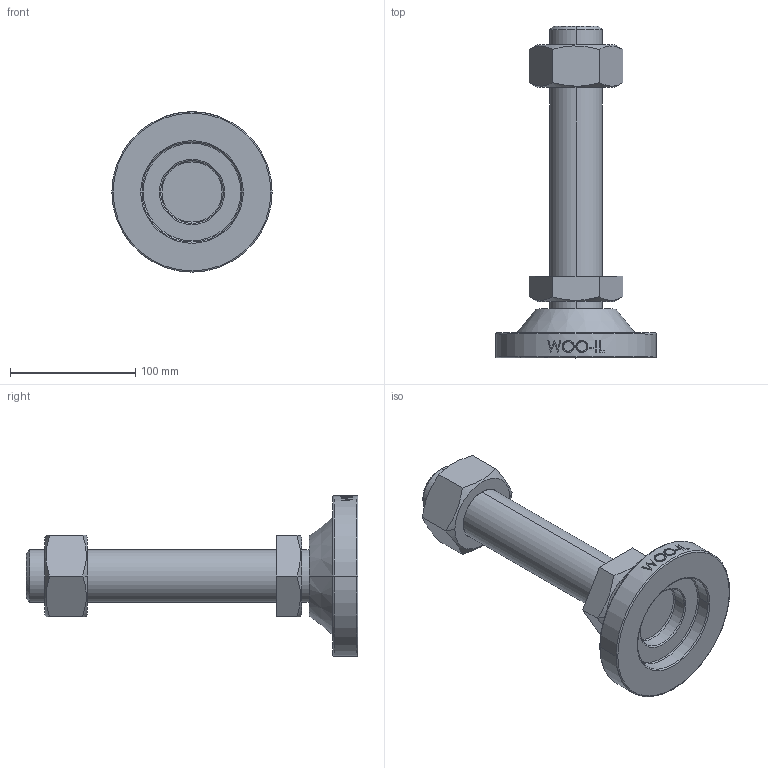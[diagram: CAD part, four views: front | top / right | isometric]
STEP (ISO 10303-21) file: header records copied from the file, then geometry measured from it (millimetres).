
FILE_DESCRIPTION (( 'STEP AP214' ), '1' );
FILE_NAME ('MFU128-M42-200.step', '2021-01-21T06:13:30', ( '' ), ( '' ), 'SwSTEP 2.0', 'SolidWorks 2019', '' );
FILE_SCHEMA (( 'AUTOMOTIVE_DESIGN' ));
Length unit declared in the file: millimetre
Products named in the file (2): MFU128-M42-200
Bounding box: 128 x 265 x 128 mm (x, y, z)
Volume: 700677.9 mm3; surface area: 91960.9 mm2
Topology: 2 solids, 2 shells, 111 faces, 255 edges, 162 vertices
Faces by surface type: plane 49, cylinder 20, bspline 16, cone 14, torus 12
Entity records: 4773 total; most frequent: CARTESIAN_POINT 2312, ORIENTED_EDGE 510, DIRECTION 471, EDGE_CURVE 255, AXIS2_PLACEMENT_3D 185, VERTEX_POINT 162, EDGE_LOOP 127, ADVANCED_FACE 111
